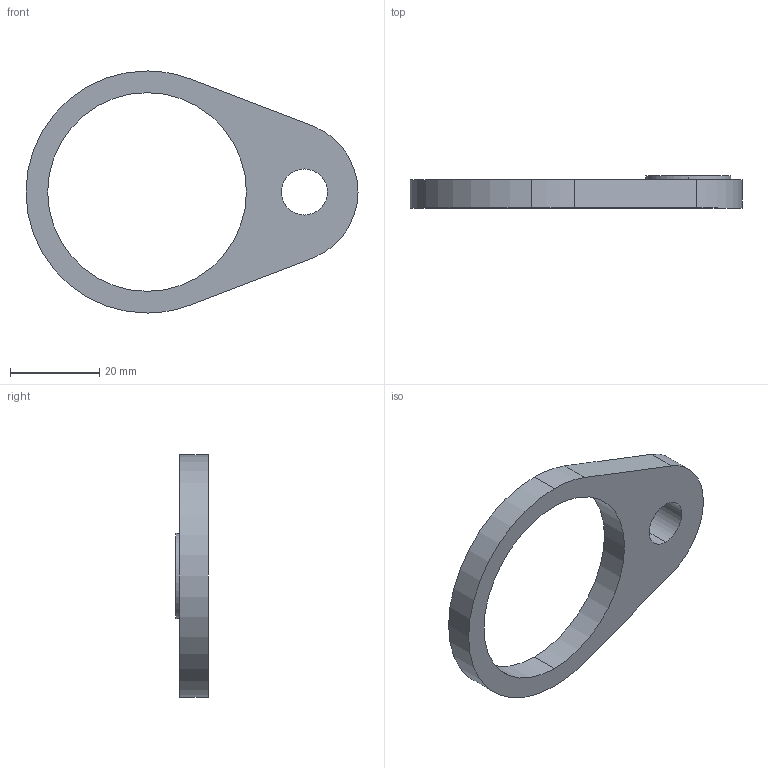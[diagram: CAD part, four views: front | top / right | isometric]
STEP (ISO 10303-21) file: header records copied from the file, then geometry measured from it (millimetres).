
FILE_DESCRIPTION (( 'STEP AP214' ), '1' );
FILE_NAME ('GasSpringClamp-B-44.5.stp', '2011-04-26T19:45:59', ( '' ), ( '' ), 'SwSTEP 2.0', 'SolidWorks 2010', '' );
FILE_SCHEMA (( 'AUTOMOTIVE_DESIGN' ));
Length unit declared in the file: inch
Products named in the file (1): GasSpringClamp-B-44.5
Bounding box: 74.35 x 7.24 x 54.23 mm (x, y, z)
Volume: 8737.2 mm3; surface area: 5152.7 mm2
Topology: 1 solids, 1 shells, 15 faces, 36 edges, 24 vertices
Faces by surface type: cylinder 10, plane 5
Entity records: 498 total; most frequent: DIRECTION 88, CARTESIAN_POINT 76, ORIENTED_EDGE 72, AXIS2_PLACEMENT_3D 36, EDGE_CURVE 36, VERTEX_POINT 24, CIRCLE 20, EDGE_LOOP 20
